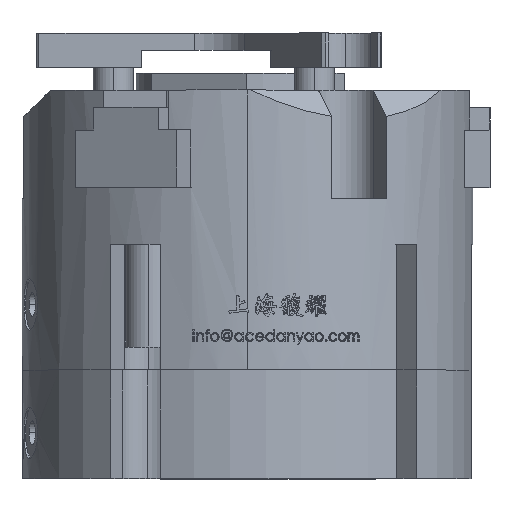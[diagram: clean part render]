
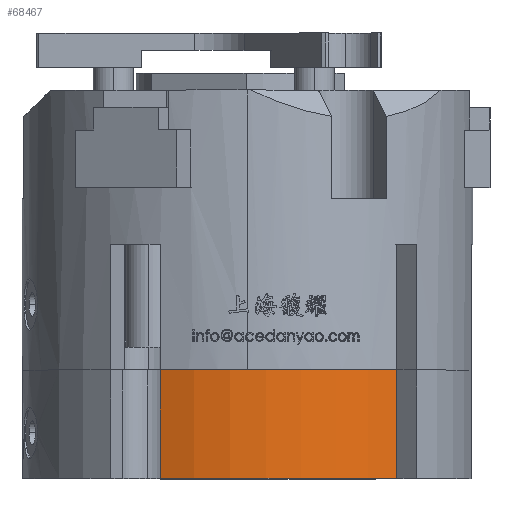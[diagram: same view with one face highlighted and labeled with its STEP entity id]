
A CAD part, top view. The second image highlights one B-rep face of the part: STEP entity #68467.
In plain terms, the highlighted cylindrical face has radius 39.5 mm (diameter 79 mm), a partial arc.
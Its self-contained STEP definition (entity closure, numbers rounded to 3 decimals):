
#756 = VERTEX_POINT ( 'NONE', #28863 ) ;
#5557 = ORIENTED_EDGE ( 'NONE', *, *, #51247, .F. ) ;
#7093 = DIRECTION ( 'NONE',  ( 0., 1., 0. ) ) ;
#7424 = CARTESIAN_POINT ( 'NONE',  ( -15.261, 19., 36.433 ) ) ;
#11192 = AXIS2_PLACEMENT_3D ( 'NONE', #41294, #7093, #48243 ) ;
#14078 = CARTESIAN_POINT ( 'NONE',  ( 26.107, 0., 29.642 ) ) ;
#14105 = DIRECTION ( 'NONE',  ( 0., -1., 0. ) ) ;
#15039 = DIRECTION ( 'NONE',  ( 0., -1., 0. ) ) ;
#15288 = DIRECTION ( 'NONE',  ( 0., 0., -1. ) ) ;
#18068 = AXIS2_PLACEMENT_3D ( 'NONE', #38748, #15039, #15288 ) ;
#20312 = DIRECTION ( 'NONE',  ( 0., 1., 0. ) ) ;
#20362 = FACE_OUTER_BOUND ( 'NONE', #21119, .T. ) ;
#21119 = EDGE_LOOP ( 'NONE', ( #5557, #55093, #37517, #70452 ) ) ;
#21503 = EDGE_CURVE ( 'NONE', #45166, #756, #69918, .T. ) ;
#21792 = EDGE_CURVE ( 'NONE', #756, #41972, #62545, .T. ) ;
#28863 = CARTESIAN_POINT ( 'NONE',  ( -15.261, 0., 36.433 ) ) ;
#32069 = CARTESIAN_POINT ( 'NONE',  ( 26.107, 19., 29.642 ) ) ;
#36834 = VECTOR ( 'NONE', #14105, 1000. ) ;
#37517 = ORIENTED_EDGE ( 'NONE', *, *, #21792, .T. ) ;
#38748 = CARTESIAN_POINT ( 'NONE',  ( 0., 19., 0. ) ) ;
#41294 = CARTESIAN_POINT ( 'NONE',  ( 0., 0., 0. ) ) ;
#41607 = VECTOR ( 'NONE', #72513, 1000. ) ;
#41972 = VERTEX_POINT ( 'NONE', #14078 ) ;
#43425 = LINE ( 'NONE', #73001, #41607 ) ;
#43453 = CARTESIAN_POINT ( 'NONE',  ( -15.261, 19., 36.433 ) ) ;
#44896 = AXIS2_PLACEMENT_3D ( 'NONE', #55518, #20312, #61436 ) ;
#45166 = VERTEX_POINT ( 'NONE', #7424 ) ;
#45276 = VERTEX_POINT ( 'NONE', #32069 ) ;
#48243 = DIRECTION ( 'NONE',  ( 0., 0., -1. ) ) ;
#49810 = CYLINDRICAL_SURFACE ( 'NONE', #18068, 39.5 ) ;
#50124 = CIRCLE ( 'NONE', #44896, 39.5 ) ;
#51247 = EDGE_CURVE ( 'NONE', #45166, #45276, #50124, .T. ) ;
#55093 = ORIENTED_EDGE ( 'NONE', *, *, #21503, .T. ) ;
#55518 = CARTESIAN_POINT ( 'NONE',  ( 0., 19., 0. ) ) ;
#61436 = DIRECTION ( 'NONE',  ( 0., 0., -1. ) ) ;
#62545 = CIRCLE ( 'NONE', #11192, 39.5 ) ;
#68467 = ADVANCED_FACE ( 'NONE', ( #20362 ), #49810, .T. ) ;
#69918 = LINE ( 'NONE', #43453, #36834 ) ;
#70452 = ORIENTED_EDGE ( 'NONE', *, *, #71112, .T. ) ;
#71112 = EDGE_CURVE ( 'NONE', #41972, #45276, #43425, .T. ) ;
#72513 = DIRECTION ( 'NONE',  ( 0., 1., 0. ) ) ;
#73001 = CARTESIAN_POINT ( 'NONE',  ( 26.107, 19., 29.642 ) ) ;
